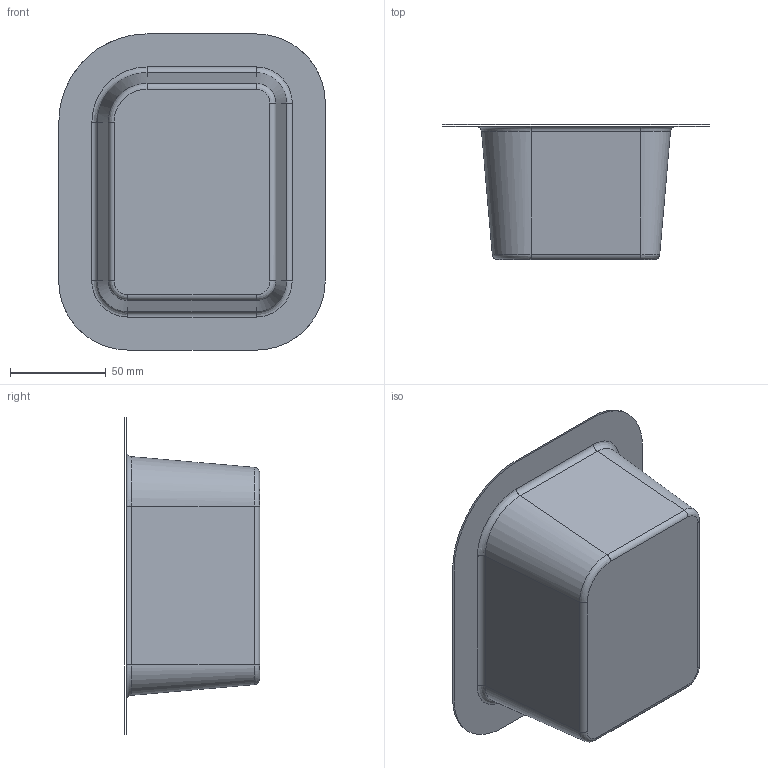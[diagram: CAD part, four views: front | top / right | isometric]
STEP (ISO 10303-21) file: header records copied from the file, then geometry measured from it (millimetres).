
FILE_DESCRIPTION(('CATIA V5 STEP Exchange'),'2;1');
FILE_NAME('C:\_Andres\UNIVERSIDAD\IQS\ASIGNATURAS\DAO\Controles\1617\c3\2inicio\Gumá_Abizanda_control3_v13.stp','2017-02-17T14:22:06+00:00',('none'),('none'),'CATIA Version 5-6 Release 2014 SP1 HF18','CATIA V5 STEP AP203','none');
FILE_SCHEMA(('CONFIG_CONTROL_DESIGN'));
Length unit declared in the file: millimetre
Products named in the file (1): Gumá_Abizanda_control3_v13
Bounding box: 139.2 x 70.73 x 165.2 mm (x, y, z)
Surface area: 67982.5 mm2 (no closed solid volume)
Topology: 0 solids, 2 shells, 27 faces, 80 edges, 57 vertices
Faces by surface type: bspline 16, cylinder 8, plane 3
Entity records: 2195 total; most frequent: CARTESIAN_POINT 1599, ORIENTED_EDGE 128, EDGE_CURVE 72, B_SPLINE_CURVE_WITH_KNOTS 54, DIRECTION 50, VERTEX_POINT 48, EDGE_LOOP 28, ADVANCED_FACE 27
